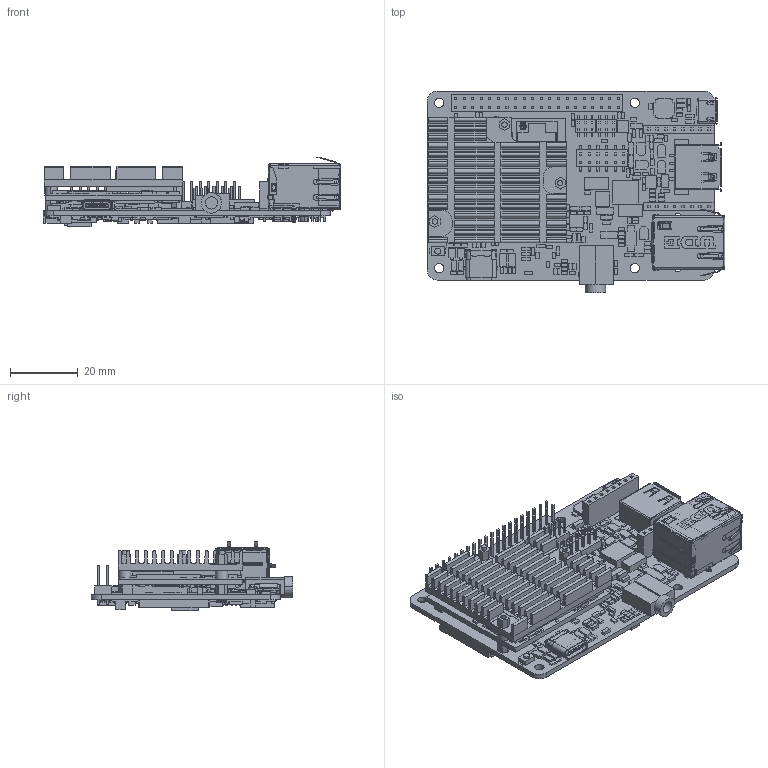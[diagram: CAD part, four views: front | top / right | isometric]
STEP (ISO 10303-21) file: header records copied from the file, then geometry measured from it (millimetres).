
FILE_DESCRIPTION((''),'2;1');
FILE_NAME('PICO-PI-IMX7D-HS06_ASM','2020-12-31T',('gary'),(''),'CREO PARAMETRIC BY PTC INC, 2014350','CREO PARAMETRIC BY PTC INC, 2014350','');
FILE_SCHEMA(('AUTOMOTIVE_DESIGN { 1 0 10303 214 1 1 1 1 }'));
Products named in the file (116): TN132_PCB; UT11113-11604-7H-327-0708-X2__1; UT11113-11604-7H-327-0708-X2__2; UT11113-11604-7H-327-0708-X2_1_ASM; AUDIO_PJD-035-47B; LCD_FPC_CONN_50PIN; USB_TOUCH_1_1_2; PINHERADER_2X20_P254; FEMALE_HEADER_1X8; SW_MPTCFGP2-V; CONN_FP124-404M4; PIN_HOLDER_2X6_P254_SMT; PIN_HOLDER_2X3_P02_SMT; DHNF_04F_V_B; USB_KUAS19-4XX2X0-19; MIRCO_USB_KMR1; CONN_DF40C-70DP-04V; RT7-M110_RT7-M1100A1G-10PI-8799; RT7-M110_RT7-M1100A1G-10PI-8804; RM1-C110-SW_____-1_RM1-C11-8805; RM1-C110-SW_____-1_RM1-C11-8806; RM1-C110-SW_____-1_RM1-C11-8807; RT7-M110_RT7-M1100A1G-10PI-8808; RT7-M110_RT7-M1100A1G-10PI-8809; RT7-P110-J3_RT7-P110GA0G-1-SOLI; RT7-M110_RT7-M1100A1G-10PI-8811; RT7_LED_1-1-SOLID2; RT7_LED_1-1-SOLID1; RT7-M110_RT7-M1100A1G-10PI-8814; RT7-S110-W_11111-1-SOLID1; RT7-M110_RT7-M1100A1G-10PI-8816; RT7-M110_RT7-M1100A1G-10PI-8817; RM1-C110-SW_____-1_RM1-C11-8818; RT7-P140_1-1-SOLID1; RT7-P130_RT7-P130000G-1-SOLID1; RM1-C110-SW_____-1_RM1-C11-8821; RT7-M110_RT7-M1100A1G-10PI-8822; RM1-C110-SW_____-1_RM1-C11-8823; RT7-M110_RT7-M1100A1G-10PI-8824; RM1-C110-SW_____-1_RM1-C11-8825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
Assembly tree (878 placements, depth 4):
  PICO-PI-IMX7D-HS06_ASM
    TN132_ASM_ASM
      TN132_PCB
      UT11113-11604-7H-327-0708-X2_1_ASM
        UT11113-11604-7H-327-0708-X2__1
        UT11113-11604-7H-327-0708-X2__2
      AUDIO_PJD-035-47B
      LCD_FPC_CONN_50PIN
      USB_TOUCH_1_1_2
      PINHERADER_2X20_P254
      FEMALE_HEADER_1X8  x2
      SW_MPTCFGP2-V
      CONN_FP124-404M4
      PIN_HOLDER_2X6_P254_SMT
      PIN_HOLDER_2X3_P02_SMT  x2
      DHNF_04F_V_B
      USB_KUAS19-4XX2X0-19
      MIRCO_USB_KMR1
      CONN_DF40C-70DP-04V  x3
      RT7-174A-XXXX-10PIN_1_ASM
        RT7-M110_RT7-M1100A1G-10PI-8799
        RT7-M110_RT7-M1100A1G-10PI-8804
        RM1-C110-SW_____-1_RM1-C11-8805
        RM1-C110-SW_____-1_RM1-C11-8806
        RM1-C110-SW_____-1_RM1-C11-8807
        RT7-M110_RT7-M1100A1G-10PI-8808
        RT7-M110_RT7-M1100A1G-10PI-8809
        RT7-P110-J3_RT7-P110GA0G-1-SOLI
        RT7-M110_RT7-M1100A1G-10PI-8811
        RT7_LED_1-1-SOLID2
        RT7_LED_1-1-SOLID1
        RT7-M110_RT7-M1100A1G-10PI-8814
        RT7-S110-W_11111-1-SOLID1
        RT7-M110_RT7-M1100A1G-10PI-8816
        RT7-M110_RT7-M1100A1G-10PI-8817
        RM1-C110-SW_____-1_RM1-C11-8818
        RT7-P140_1-1-SOLID1
        RT7-P130_RT7-P130000G-1-SOLID1
        RM1-C110-SW_____-1_RM1-C11-8821
        RT7-M110_RT7-M1100A1G-10PI-8822
        RM1-C110-SW_____-1_RM1-C11-8823
        RT7-M110_RT7-M1100A1G-10PI-8824
        RM1-C110-SW_____-1_RM1-C11-8825
        RT7-M110_RT7-M1100A1G-10PI-8826
        RT7-M110_RT7-M1100A1G-10PI-8827
        RM1-C110-SW_____-1_RM1-C11-8828
      TN132_B1_1230_ASM
        MYSOT23_BAT54C_A
        QFN32_D5_5X5_GND
        YZC_R-XBGA-N6_C2_11X16
        QFN32_D5_5X5_G122_9P
        SOT23_IOG
        SOT23_GDS  x2
        1SS355_AC  x2
        SOT23_BCE  x4
        BAT54S_132  x4
        TSSOP8_D65
        SM0805R  x4
        L4242H20_FDSD0420
        SMB214AA_AC  x2
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Bounding box: 88.09 x 59.8 x 20.58 mm (x, y, z)
Volume: 24050.5 mm3; surface area: 48373.3 mm2
Topology: 872 solids, 872 shells, 12423 faces, 30858 edges, 20419 vertices
Faces by surface type: plane 10946, cylinder 1330, bspline 76, torus 34, cone 25, sphere 10, extrusion 2
Entity records: 265713 total; most frequent: CARTESIAN_POINT 38719, DIRECTION 33271, ORIENTED_EDGE 31594, EDGE_CURVE 15797, PRESENTATION_STYLE_ASSIGNMENT 15103, STYLED_ITEM 15103, CURVE_STYLE 15041, VECTOR 12799
